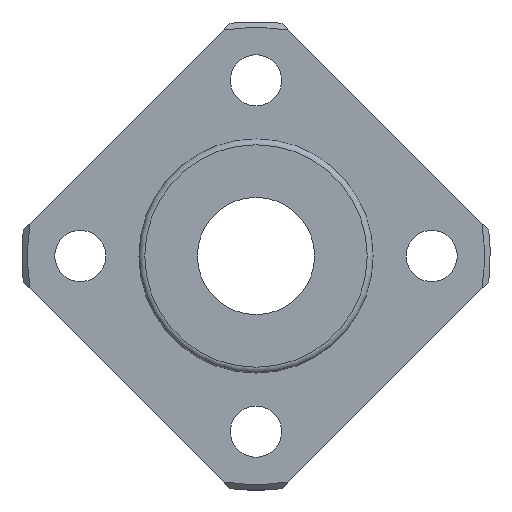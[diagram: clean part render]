
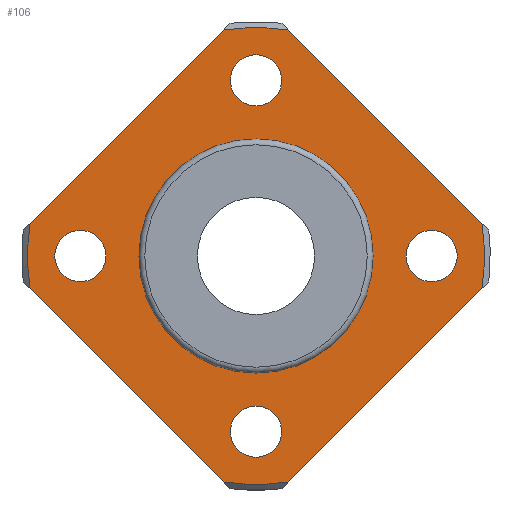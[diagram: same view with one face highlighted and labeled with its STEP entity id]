
A CAD part, left-side view. The second image highlights one B-rep face of the part: STEP entity #106.
In plain terms, the highlighted planar face has unit normal (-1, 0, 0).
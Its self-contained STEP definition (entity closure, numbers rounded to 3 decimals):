
#106=ADVANCED_FACE('',(#197,#198,#199,#200,#201,#202),#203,.T.);
#197=FACE_BOUND('',#297,.T.);
#198=FACE_BOUND('',#298,.T.);
#199=FACE_BOUND('',#299,.T.);
#200=FACE_BOUND('',#300,.T.);
#201=FACE_BOUND('',#301,.T.);
#202=FACE_OUTER_BOUND('',#302,.T.);
#203=PLANE('',#303);
#297=EDGE_LOOP('',(#514));
#298=EDGE_LOOP('',(#515));
#299=EDGE_LOOP('',(#516));
#300=EDGE_LOOP('',(#517));
#301=EDGE_LOOP('',(#518));
#302=EDGE_LOOP('',(#519,#520,#521,#522,#523,#524,#525,#526));
#303=AXIS2_PLACEMENT_3D('',#527,#528,#529);
#514=ORIENTED_EDGE('',*,*,#626,.F.);
#515=ORIENTED_EDGE('',*,*,#625,.F.);
#516=ORIENTED_EDGE('',*,*,#624,.F.);
#517=ORIENTED_EDGE('',*,*,#612,.F.);
#518=ORIENTED_EDGE('',*,*,#615,.F.);
#519=ORIENTED_EDGE('',*,*,#575,.F.);
#520=ORIENTED_EDGE('',*,*,#627,.T.);
#521=ORIENTED_EDGE('',*,*,#628,.T.);
#522=ORIENTED_EDGE('',*,*,#629,.T.);
#523=ORIENTED_EDGE('',*,*,#604,.F.);
#524=ORIENTED_EDGE('',*,*,#564,.T.);
#525=ORIENTED_EDGE('',*,*,#572,.T.);
#526=ORIENTED_EDGE('',*,*,#616,.T.);
#527=CARTESIAN_POINT('',(-5.0,0.0,0.));
#528=DIRECTION('',(-1.0,0.0,0.));
#529=DIRECTION('',(0.0,-1.0,0.0));
#564=EDGE_CURVE('',#638,#636,#639,.T.);
#572=EDGE_CURVE('',#636,#651,#653,.T.);
#575=EDGE_CURVE('',#657,#659,#660,.T.);
#604=EDGE_CURVE('',#638,#711,#712,.T.);
#612=EDGE_CURVE('',#723,#723,#724,.T.);
#615=EDGE_CURVE('',#728,#728,#729,.T.);
#616=EDGE_CURVE('',#651,#659,#730,.T.);
#624=EDGE_CURVE('',#745,#745,#746,.T.);
#625=EDGE_CURVE('',#747,#747,#748,.T.);
#626=EDGE_CURVE('',#749,#749,#750,.T.);
#627=EDGE_CURVE('',#657,#751,#752,.T.);
#628=EDGE_CURVE('',#751,#753,#754,.T.);
#629=EDGE_CURVE('',#753,#711,#755,.T.);
#636=VERTEX_POINT('',#762);
#638=VERTEX_POINT('',#767);
#639=CIRCLE('',#768,15.6);
#651=VERTEX_POINT('',#804);
#653=LINE('',#809,#810);
#657=VERTEX_POINT('',#815);
#659=VERTEX_POINT('',#820);
#660=LINE('',#821,#822);
#711=VERTEX_POINT('',#910);
#712=LINE('',#911,#912);
#723=VERTEX_POINT('',#936);
#724=CIRCLE('',#937,1.75);
#728=VERTEX_POINT('',#950);
#729=CIRCLE('',#951,7.75);
#730=CIRCLE('',#952,15.6);
#745=VERTEX_POINT('',#967);
#746=CIRCLE('',#968,1.75);
#747=VERTEX_POINT('',#969);
#748=CIRCLE('',#970,1.75);
#749=VERTEX_POINT('',#971);
#750=CIRCLE('',#972,1.75);
#751=VERTEX_POINT('',#973);
#752=CIRCLE('',#974,15.6);
#753=VERTEX_POINT('',#975);
#754=LINE('',#976,#977);
#755=CIRCLE('',#978,15.6);
#762=CARTESIAN_POINT('',(-5.0,-15.438,2.239));
#767=CARTESIAN_POINT('',(-5.0,-15.438,-2.239));
#768=AXIS2_PLACEMENT_3D('',#1000,#1001,#1002);
#804=CARTESIAN_POINT('',(-5.0,-2.239,15.438));
#809=CARTESIAN_POINT('',(-5.0,-15.901,1.777));
#810=VECTOR('',#1006,1.0);
#815=CARTESIAN_POINT('',(-5.0,15.438,2.239));
#820=CARTESIAN_POINT('',(-5.0,2.239,15.438));
#821=CARTESIAN_POINT('',(-5.0,15.901,1.777));
#822=VECTOR('',#1008,1.0);
#910=CARTESIAN_POINT('',(-5.0,-2.239,-15.438));
#911=CARTESIAN_POINT('',(-5.0,-15.901,-1.777));
#912=VECTOR('',#1067,1.0);
#936=CARTESIAN_POINT('',(-5.0,0.,-10.25));
#937=AXIS2_PLACEMENT_3D('',#1081,#1082,#1083);
#950=CARTESIAN_POINT('',(-5.0,-7.75,0.));
#951=AXIS2_PLACEMENT_3D('',#1087,#1088,#1089);
#952=AXIS2_PLACEMENT_3D('',#1090,#1091,#1092);
#967=CARTESIAN_POINT('',(-5.0,-12.,1.75));
#968=AXIS2_PLACEMENT_3D('',#1114,#1115,#1116);
#969=CARTESIAN_POINT('',(-5.0,0.,13.75));
#970=AXIS2_PLACEMENT_3D('',#1117,#1118,#1119);
#971=CARTESIAN_POINT('',(-5.0,12.,1.75));
#972=AXIS2_PLACEMENT_3D('',#1120,#1121,#1122);
#973=CARTESIAN_POINT('',(-5.0,15.438,-2.239));
#974=AXIS2_PLACEMENT_3D('',#1123,#1124,#1125);
#975=CARTESIAN_POINT('',(-5.0,2.239,-15.438));
#976=CARTESIAN_POINT('',(-5.0,15.901,-1.777));
#977=VECTOR('',#1126,1.0);
#978=AXIS2_PLACEMENT_3D('',#1127,#1128,#1129);
#1000=CARTESIAN_POINT('',(-5.0,0.,0.));
#1001=DIRECTION('',(-1.0,0.,0.));
#1002=DIRECTION('',(0.,0.0,1.0));
#1006=DIRECTION('',(0.,0.707,0.707));
#1008=DIRECTION('',(0.,-0.707,0.707));
#1067=DIRECTION('',(0.,0.707,-0.707));
#1081=CARTESIAN_POINT('',(-5.0,0.,-12.));
#1082=DIRECTION('',(-1.0,0.0,0.));
#1083=DIRECTION('',(0.,0.0,1.0));
#1087=CARTESIAN_POINT('',(-5.0,0.0,0.));
#1088=DIRECTION('',(-1.0,0.0,0.));
#1089=DIRECTION('',(0.0,-1.0,0.0));
#1090=CARTESIAN_POINT('',(-5.0,0.,0.));
#1091=DIRECTION('',(-1.0,0.,0.));
#1092=DIRECTION('',(0.,0.0,1.0));
#1114=CARTESIAN_POINT('',(-5.0,-12.,0.));
#1115=DIRECTION('',(-1.0,0.0,0.));
#1116=DIRECTION('',(0.,0.0,1.0));
#1117=CARTESIAN_POINT('',(-5.0,0.,12.));
#1118=DIRECTION('',(-1.0,0.0,0.));
#1119=DIRECTION('',(0.,0.0,1.0));
#1120=CARTESIAN_POINT('',(-5.0,12.,0.));
#1121=DIRECTION('',(-1.0,0.0,0.));
#1122=DIRECTION('',(0.,0.0,1.0));
#1123=CARTESIAN_POINT('',(-5.0,0.,0.));
#1124=DIRECTION('',(-1.0,0.,0.));
#1125=DIRECTION('',(0.,0.0,1.0));
#1126=DIRECTION('',(0.,-0.707,-0.707));
#1127=CARTESIAN_POINT('',(-5.0,0.,0.));
#1128=DIRECTION('',(-1.0,0.,0.));
#1129=DIRECTION('',(0.,0.0,1.0));
